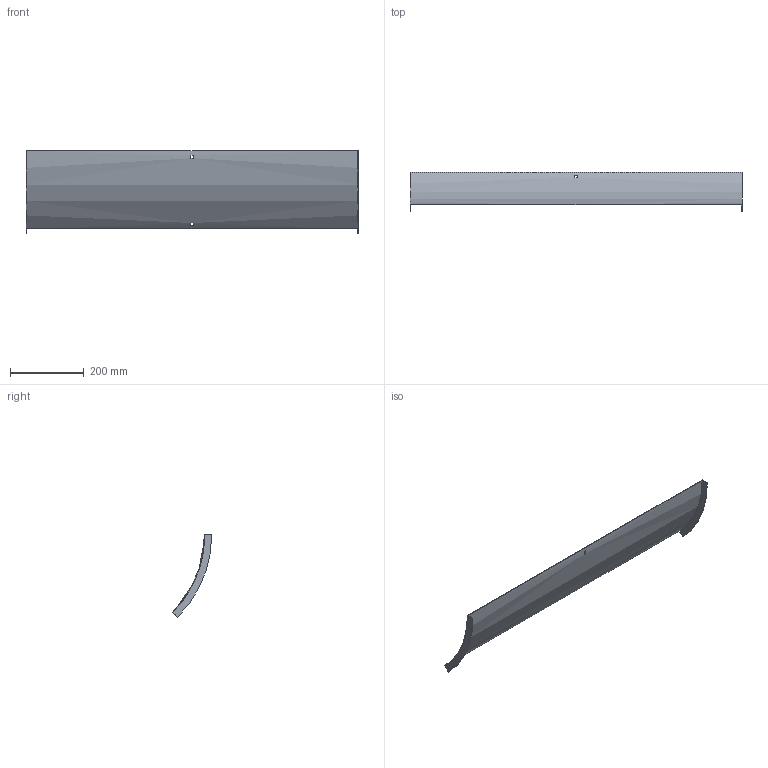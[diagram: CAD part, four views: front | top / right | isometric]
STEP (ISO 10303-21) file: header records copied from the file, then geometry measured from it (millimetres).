
FILE_DESCRIPTION (( 'STEP AP214' ), '1' );
FILE_NAME ('B2X31N3R900X.step', '2025-03-20T09:42:31', ( '' ), ( '' ), 'SwSTEP 2.0', 'SolidWorks 2023', '' );
FILE_SCHEMA (( 'AUTOMOTIVE_DESIGN' ));
Length unit declared in the file: millimetre
Products named in the file (1): B2X31N3R900X
Bounding box: 903 x 107.43 x 225.21 mm (x, y, z)
Volume: 331653 mm3; surface area: 445865.8 mm2
Topology: 1 solids, 1 shells, 18 faces, 48 edges, 32 vertices
Faces by surface type: plane 14, cylinder 4
Entity records: 599 total; most frequent: DIRECTION 102, CARTESIAN_POINT 99, ORIENTED_EDGE 96, EDGE_CURVE 48, AXIS2_PLACEMENT_3D 35, LINE 32, VECTOR 32, VERTEX_POINT 32
